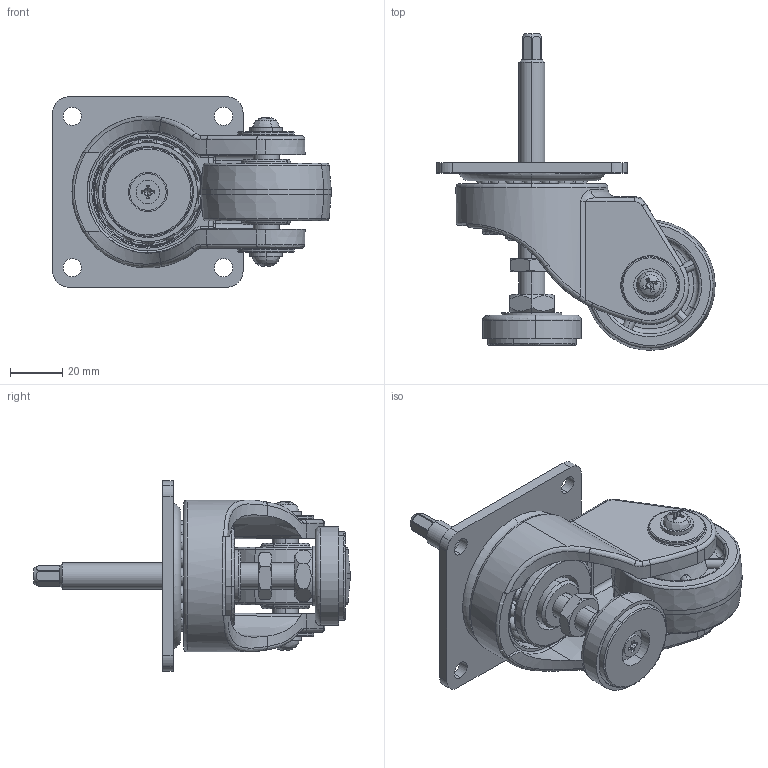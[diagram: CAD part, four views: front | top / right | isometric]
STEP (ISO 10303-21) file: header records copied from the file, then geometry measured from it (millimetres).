
FILE_DESCRIPTION(/* description */ (''),/* implementation_level */ '2;1');
FILE_NAME(/* name */ 'YKAD-200F.stp',/* time_stamp */ '2024-07-18T08:57:16+08:00',/* author */ (''),/* organization */ (''),/* preprocessor_version */ 'ST-DEVELOPER v16',/* originating_system */ 'SIEMENS PLM Software NX 10.0',/* authorisation */ '');
FILE_SCHEMA (('AP203_CONFIGURATION_CONTROLLED_3D_DESIGN_OF_MECHANICAL_PARTS_AND_ASSEMBLIES_MIM_LF { 1 0 10303 403 2 1 2}'));
Length unit declared in the file: millimetre
Products named in the file (1): Admi15E830D0qao0
Bounding box: 106.81 x 121.49 x 73 mm (x, y, z)
Volume: 152338 mm3; surface area: 65857.5 mm2
Topology: 9 solids, 9 shells, 733 faces, 2149 edges, 1339 vertices
Faces by surface type: cone 179, cylinder 177, plane 161, torus 111, sphere 66, bspline 39
Full cylindrical faces by diameter (mm): 58.29 x1
Entity records: 29393 total; most frequent: CARTESIAN_POINT 11219, ORIENTED_EDGE 3878, DIRECTION 3808, EDGE_CURVE 1939, AXIS2_PLACEMENT_3D 1678, VERTEX_POINT 1217, CIRCLE 983, EDGE_LOOP 842
